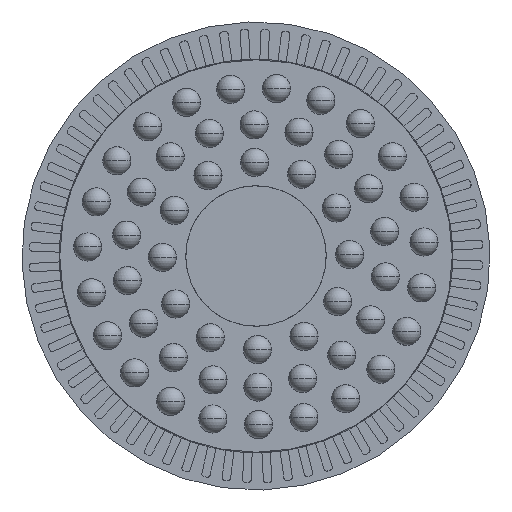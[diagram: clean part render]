
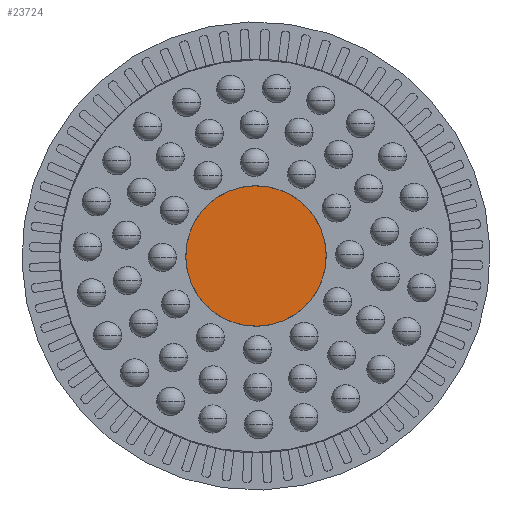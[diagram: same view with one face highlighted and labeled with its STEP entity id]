
A CAD part, front view. The second image highlights one B-rep face of the part: STEP entity #23724.
In plain terms, the highlighted planar face has unit normal (0, -1, 0) as drawn and (0, 0, -1) by its records, which use the part's own axes.
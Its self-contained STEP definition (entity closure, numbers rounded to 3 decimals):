
#208 = CARTESIAN_POINT ( 'NONE',  ( 0., 0., 0. ) ) ;
#2953 = DIRECTION ( 'NONE',  ( 1., 0., 0. ) ) ;
#4904 = AXIS2_PLACEMENT_3D ( 'NONE', #11200, #29670, #13914 ) ;
#5274 = CIRCLE ( 'NONE', #4904, 7.5 ) ;
#8405 = CARTESIAN_POINT ( 'NONE',  ( 0., 0., 0. ) ) ;
#11182 = DIRECTION ( 'NONE',  ( -1., 0., 0. ) ) ;
#11200 = CARTESIAN_POINT ( 'NONE',  ( 0., 0., 0. ) ) ;
#12521 = ORIENTED_EDGE ( 'NONE', *, *, #20607, .T. ) ;
#13406 = CIRCLE ( 'NONE', #24650, 7.5 ) ;
#13914 = DIRECTION ( 'NONE',  ( -1., 0., 0. ) ) ;
#17807 = EDGE_LOOP ( 'NONE', ( #12521, #29293 ) ) ;
#17912 = VERTEX_POINT ( 'NONE', #26121 ) ;
#17928 = CARTESIAN_POINT ( 'NONE',  ( -7.5, 0., 0. ) ) ;
#18980 = FACE_OUTER_BOUND ( 'NONE', #17807, .T. ) ;
#19174 = DIRECTION ( 'NONE',  ( 0., 0., 1. ) ) ;
#20607 = EDGE_CURVE ( 'NONE', #33324, #17912, #5274, .T. ) ;
#22078 = AXIS2_PLACEMENT_3D ( 'NONE', #208, #19174, #2953 ) ;
#23724 = ADVANCED_FACE ( 'NONE', ( #18980 ), #29562, .F. ) ;
#24650 = AXIS2_PLACEMENT_3D ( 'NONE', #8405, #26994, #11182 ) ;
#26086 = EDGE_CURVE ( 'NONE', #17912, #33324, #13406, .T. ) ;
#26121 = CARTESIAN_POINT ( 'NONE',  ( 7.5, 0., 0. ) ) ;
#26994 = DIRECTION ( 'NONE',  ( 0., 0., -1. ) ) ;
#29293 = ORIENTED_EDGE ( 'NONE', *, *, #26086, .T. ) ;
#29562 = PLANE ( 'NONE',  #22078 ) ;
#29670 = DIRECTION ( 'NONE',  ( 0., 0., -1. ) ) ;
#33324 = VERTEX_POINT ( 'NONE', #17928 ) ;
